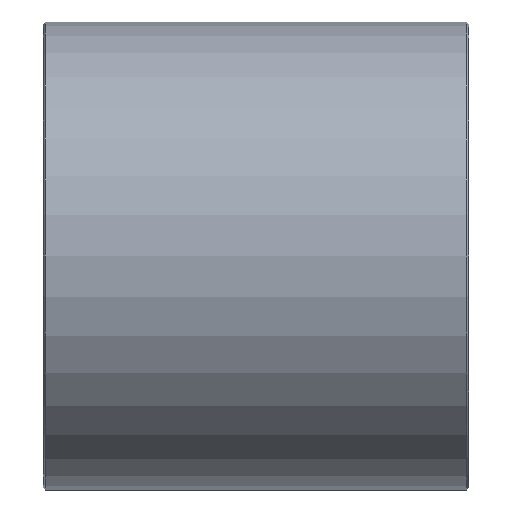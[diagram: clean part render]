
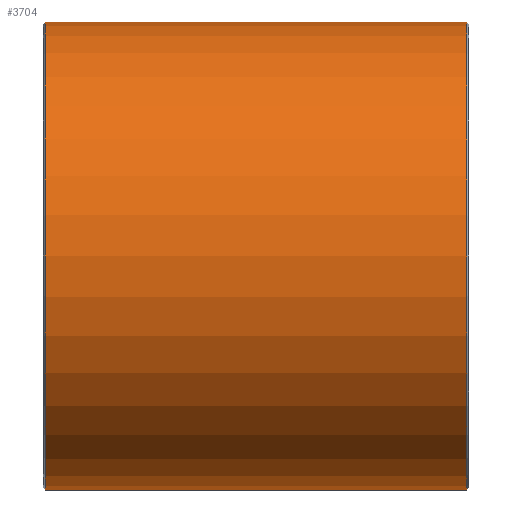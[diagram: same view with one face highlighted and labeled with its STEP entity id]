
A CAD part, front view. The second image highlights one B-rep face of the part: STEP entity #3704.
In plain terms, the highlighted cylindrical face has radius 55 mm (diameter 110 mm), a partial arc.
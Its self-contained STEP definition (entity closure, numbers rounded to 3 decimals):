
#96=DIRECTION('',(1.,0.,0.));
#97=VECTOR('',#96,99.);
#98=CARTESIAN_POINT('',(-49.5,0.,
-55.));
#99=LINE('',#98,#97);
#153=CARTESIAN_POINT('',(49.5,0.,0.));
#154=DIRECTION('',(1.,0.,0.));
#155=DIRECTION('',(0.,0.,1.));
#156=AXIS2_PLACEMENT_3D('',#153,#154,#155);
#158=CARTESIAN_POINT('',(-49.5,0.,0.));
#159=DIRECTION('',(-1.,0.,0.));
#160=DIRECTION('',(0.,0.,-1.));
#161=AXIS2_PLACEMENT_3D('',#158,#159,#160);
#163=DIRECTION('',(1.,0.,0.));
#164=VECTOR('',#163,99.);
#165=CARTESIAN_POINT('',(-49.5,0.,
55.));
#166=LINE('',#165,#164);
#3571=CARTESIAN_POINT('',(49.5,0.,55.));
#3572=CARTESIAN_POINT('',(49.5,0.,-55.));
#3573=VERTEX_POINT('',#3571);
#3574=VERTEX_POINT('',#3572);
#3579=CARTESIAN_POINT('',(-49.5,0.,-55.));
#3580=CARTESIAN_POINT('',(-49.5,0.,55.));
#3581=VERTEX_POINT('',#3579);
#3582=VERTEX_POINT('',#3580);
#3693=CARTESIAN_POINT('',(-50.,0.,0.));
#3694=DIRECTION('',(1.,0.,0.));
#3695=DIRECTION('',(0.,0.,-1.));
#3696=AXIS2_PLACEMENT_3D('',#3693,#3694,#3695);
#3697=CYLINDRICAL_SURFACE('',#3696,55.);
#3698=ORIENTED_EDGE('',*,*,#3687,.T.);
#3699=ORIENTED_EDGE('',*,*,#3641,.F.);
#3700=ORIENTED_EDGE('',*,*,#3611,.T.);
#3701=ORIENTED_EDGE('',*,*,#3638,.T.);
#3702=EDGE_LOOP('',(#3698,#3699,#3700,#3701));
#3703=FACE_OUTER_BOUND('',#3702,.F.);
#3704=ADVANCED_FACE('',(#3703),#3697,.T.);
#157=CIRCLE('',#156,55.);
#162=CIRCLE('',#161,55.);
#3611=EDGE_CURVE('',#3581,#3582,#162,.T.);
#3638=EDGE_CURVE('',#3582,#3573,#166,.T.);
#3641=EDGE_CURVE('',#3581,#3574,#99,.T.);
#3687=EDGE_CURVE('',#3573,#3574,#157,.T.);
